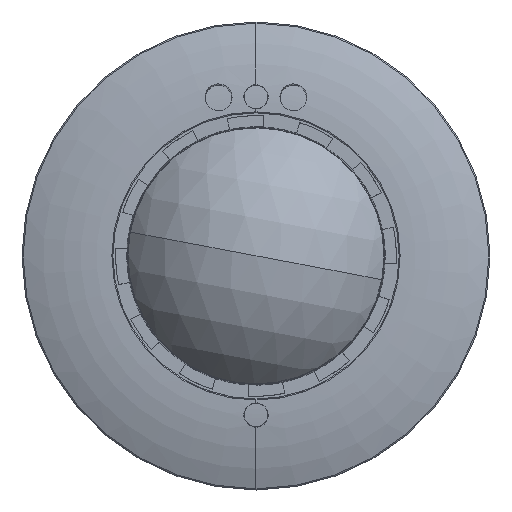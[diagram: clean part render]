
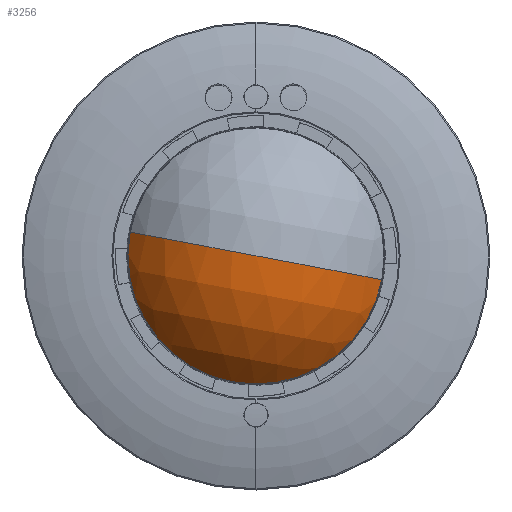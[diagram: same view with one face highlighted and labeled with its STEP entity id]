
A CAD part, top view. The second image highlights one B-rep face of the part: STEP entity #3256.
In plain terms, the highlighted spherical face has radius 16.832 mm.
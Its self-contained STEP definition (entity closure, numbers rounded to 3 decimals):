
#153 = CARTESIAN_POINT ( 'NONE',  ( 0., 0., 25.907 ) ) ;
#234 = EDGE_CURVE ( 'NONE', #5252, #5551, #20096, .T. ) ;
#1151 = CARTESIAN_POINT ( 'NONE',  ( -13.444, 2.541, 25.907 ) ) ;
#1228 = CARTESIAN_POINT ( 'NONE',  ( 0., 0., 32.934 ) ) ;
#1278 = ORIENTED_EDGE ( 'NONE', *, *, #10366, .T. ) ;
#1729 = EDGE_CURVE ( 'NONE', #7613, #5252, #2489, .T. ) ;
#2489 = CIRCLE ( 'NONE', #8129, 16.832 ) ;
#2603 = DIRECTION ( 'NONE',  ( -0.983, 0.186, 0. ) ) ;
#2962 = CARTESIAN_POINT ( 'NONE',  ( 0., 0., 16.101 ) ) ;
#3177 = DIRECTION ( 'NONE',  ( -0.983, 0.186, 0. ) ) ;
#3224 = AXIS2_PLACEMENT_3D ( 'NONE', #2962, #12546, #4326 ) ;
#3256 = ADVANCED_FACE ( 'NONE', ( #17336 ), #10979, .T. ) ;
#3350 = ORIENTED_EDGE ( 'NONE', *, *, #1729, .F. ) ;
#3690 = DIRECTION ( 'NONE',  ( -0.983, 0.186, 0. ) ) ;
#4326 = DIRECTION ( 'NONE',  ( 0.983, -0.186, 0. ) ) ;
#4948 = DIRECTION ( 'NONE',  ( 0., 0., -1. ) ) ;
#5252 = VERTEX_POINT ( 'NONE', #10277 ) ;
#5551 = VERTEX_POINT ( 'NONE', #1151 ) ;
#5893 = CARTESIAN_POINT ( 'NONE',  ( 0., 0., 16.101 ) ) ;
#7288 = DIRECTION ( 'NONE',  ( 0.186, 0.983, 0. ) ) ;
#7613 = VERTEX_POINT ( 'NONE', #1228 ) ;
#7745 = AXIS2_PLACEMENT_3D ( 'NONE', #153, #4948, #3690 ) ;
#8129 = AXIS2_PLACEMENT_3D ( 'NONE', #19924, #7288, #2603 ) ;
#10277 = CARTESIAN_POINT ( 'NONE',  ( 13.444, -2.541, 25.907 ) ) ;
#10366 = EDGE_CURVE ( 'NONE', #7613, #5551, #12225, .T. ) ;
#10979 = SPHERICAL_SURFACE ( 'NONE', #17305, 16.832 ) ;
#12225 = CIRCLE ( 'NONE', #3224, 16.832 ) ;
#12546 = DIRECTION ( 'NONE',  ( -0.186, -0.983, 0. ) ) ;
#13813 = DIRECTION ( 'NONE',  ( 0.186, 0.983, 0. ) ) ;
#17305 = AXIS2_PLACEMENT_3D ( 'NONE', #5893, #13813, #3177 ) ;
#17336 = FACE_OUTER_BOUND ( 'NONE', #18681, .T. ) ;
#18330 = ORIENTED_EDGE ( 'NONE', *, *, #234, .F. ) ;
#18681 = EDGE_LOOP ( 'NONE', ( #3350, #1278, #18330 ) ) ;
#19924 = CARTESIAN_POINT ( 'NONE',  ( 0., 0., 16.101 ) ) ;
#20096 = CIRCLE ( 'NONE', #7745, 13.682 ) ;
